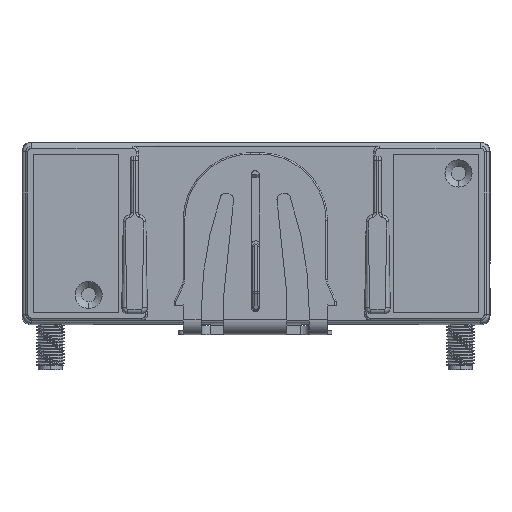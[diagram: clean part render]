
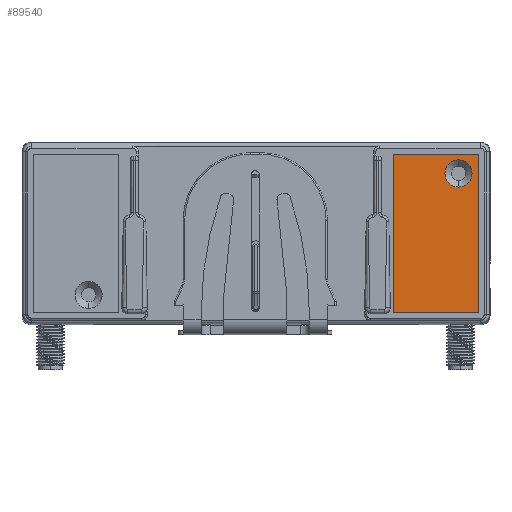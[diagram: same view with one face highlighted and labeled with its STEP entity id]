
A CAD part, front view. The second image highlights one B-rep face of the part: STEP entity #89540.
In plain terms, the highlighted planar face has unit normal (0, -1, 0).
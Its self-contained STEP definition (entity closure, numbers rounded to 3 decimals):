
#417 = VECTOR ( 'NONE', #50207, 1000. ) ;
#1162 = EDGE_LOOP ( 'NONE', ( #162359, #71458, #70721, #93570 ) ) ;
#3374 = VERTEX_POINT ( 'NONE', #49300 ) ;
#3483 = VERTEX_POINT ( 'NONE', #117920 ) ;
#5081 = CIRCLE ( 'NONE', #47059, 3.021 ) ;
#6703 = LINE ( 'NONE', #174621, #417 ) ;
#8252 = CARTESIAN_POINT ( 'NONE',  ( -21.106, 47.276, 99.276 ) ) ;
#23773 = ORIENTED_EDGE ( 'NONE', *, *, #182702, .T. ) ;
#31915 = AXIS2_PLACEMENT_3D ( 'NONE', #65079, #130829, #113578 ) ;
#41398 = AXIS2_PLACEMENT_3D ( 'NONE', #8252, #101180, #57661 ) ;
#44128 = EDGE_CURVE ( 'NONE', #124463, #3483, #119125, .T. ) ;
#47059 = AXIS2_PLACEMENT_3D ( 'NONE', #53909, #115552, #177360 ) ;
#49300 = CARTESIAN_POINT ( 'NONE',  ( 61.394, 47.276, 96.735 ) ) ;
#50207 = DIRECTION ( 'NONE',  ( -1., 0., 0. ) ) ;
#53909 = CARTESIAN_POINT ( 'NONE',  ( 75.894, 47.276, 92.485 ) ) ;
#55372 = VECTOR ( 'NONE', #165674, 1000. ) ;
#56367 = LINE ( 'NONE', #118057, #55372 ) ;
#57661 = DIRECTION ( 'NONE',  ( 0., 0., -1. ) ) ;
#59957 = EDGE_LOOP ( 'NONE', ( #185508, #23773 ) ) ;
#62719 = EDGE_CURVE ( 'NONE', #187407, #194074, #77355, .T. ) ;
#64798 = CARTESIAN_POINT ( 'NONE',  ( 61.394, 47.276, 61.535 ) ) ;
#65079 = CARTESIAN_POINT ( 'NONE',  ( 75.894, 47.276, 92.485 ) ) ;
#65887 = FACE_BOUND ( 'NONE', #59957, .T. ) ;
#70721 = ORIENTED_EDGE ( 'NONE', *, *, #107560, .T. ) ;
#71458 = ORIENTED_EDGE ( 'NONE', *, *, #62719, .T. ) ;
#73372 = CARTESIAN_POINT ( 'NONE',  ( 80.394, 47.276, 96.735 ) ) ;
#73517 = EDGE_CURVE ( 'NONE', #3374, #187407, #56367, .T. ) ;
#75815 = LINE ( 'NONE', #137479, #160852 ) ;
#77355 = LINE ( 'NONE', #169397, #130352 ) ;
#89540 = ADVANCED_FACE ( 'NONE', ( #65887, #113378 ), #175169, .T. ) ;
#93570 = ORIENTED_EDGE ( 'NONE', *, *, #134454, .T. ) ;
#101180 = DIRECTION ( 'NONE',  ( 0., -1., 0. ) ) ;
#107560 = EDGE_CURVE ( 'NONE', #194074, #154285, #75815, .T. ) ;
#113378 = FACE_OUTER_BOUND ( 'NONE', #1162, .T. ) ;
#113578 = DIRECTION ( 'NONE',  ( 0., 0., -1. ) ) ;
#115552 = DIRECTION ( 'NONE',  ( 0., 1., 0. ) ) ;
#117920 = CARTESIAN_POINT ( 'NONE',  ( 75.894, 47.276, 95.506 ) ) ;
#118057 = CARTESIAN_POINT ( 'NONE',  ( 61.394, 47.276, 96.735 ) ) ;
#119125 = CIRCLE ( 'NONE', #31915, 3.021 ) ;
#124463 = VERTEX_POINT ( 'NONE', #142131 ) ;
#130352 = VECTOR ( 'NONE', #155176, 1000. ) ;
#130829 = DIRECTION ( 'NONE',  ( 0., 1., 0. ) ) ;
#134454 = EDGE_CURVE ( 'NONE', #154285, #3374, #6703, .T. ) ;
#135557 = CARTESIAN_POINT ( 'NONE',  ( 80.394, 47.276, 61.535 ) ) ;
#137479 = CARTESIAN_POINT ( 'NONE',  ( 80.394, 47.276, 96.735 ) ) ;
#142131 = CARTESIAN_POINT ( 'NONE',  ( 75.894, 47.276, 89.465 ) ) ;
#154285 = VERTEX_POINT ( 'NONE', #73372 ) ;
#155176 = DIRECTION ( 'NONE',  ( 1., 0., 0. ) ) ;
#160852 = VECTOR ( 'NONE', #199368, 1000. ) ;
#162359 = ORIENTED_EDGE ( 'NONE', *, *, #73517, .T. ) ;
#165674 = DIRECTION ( 'NONE',  ( 0., 0., -1. ) ) ;
#169397 = CARTESIAN_POINT ( 'NONE',  ( 80.394, 47.276, 61.535 ) ) ;
#174621 = CARTESIAN_POINT ( 'NONE',  ( 80.394, 47.276, 96.735 ) ) ;
#175169 = PLANE ( 'NONE',  #41398 ) ;
#177360 = DIRECTION ( 'NONE',  ( 0., 0., -1. ) ) ;
#182702 = EDGE_CURVE ( 'NONE', #3483, #124463, #5081, .T. ) ;
#185508 = ORIENTED_EDGE ( 'NONE', *, *, #44128, .T. ) ;
#187407 = VERTEX_POINT ( 'NONE', #64798 ) ;
#194074 = VERTEX_POINT ( 'NONE', #135557 ) ;
#199368 = DIRECTION ( 'NONE',  ( 0., 0., 1. ) ) ;
